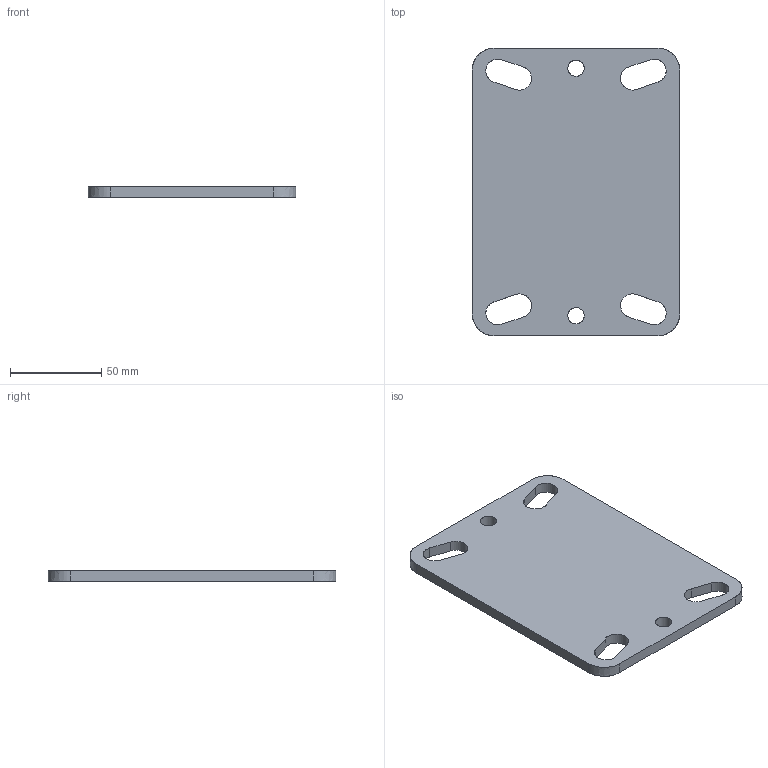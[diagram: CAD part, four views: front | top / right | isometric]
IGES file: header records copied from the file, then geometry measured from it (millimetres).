
Start section: JAMA-IS VERSION  1.0
Global section: file name: E:\tools-models\その他メーカー2\INOAC車輪\9月\KTU-200WK-GS-11.igs; native system: CAM-TOOL; preprocessor: C3out Version 11.1.1.50212 (2015/02/12); author: NONE; organization: NONE; date: 190925.155654; units: millimetre
Bounding box: 114 x 158 x 6 mm (x, y, z)
Surface area: 38210.7 mm2 (no closed solid volume)
Topology: 0 solids, 0 shells, 28 faces, 648 edges, 662 vertices
Faces by surface type: bspline 28
